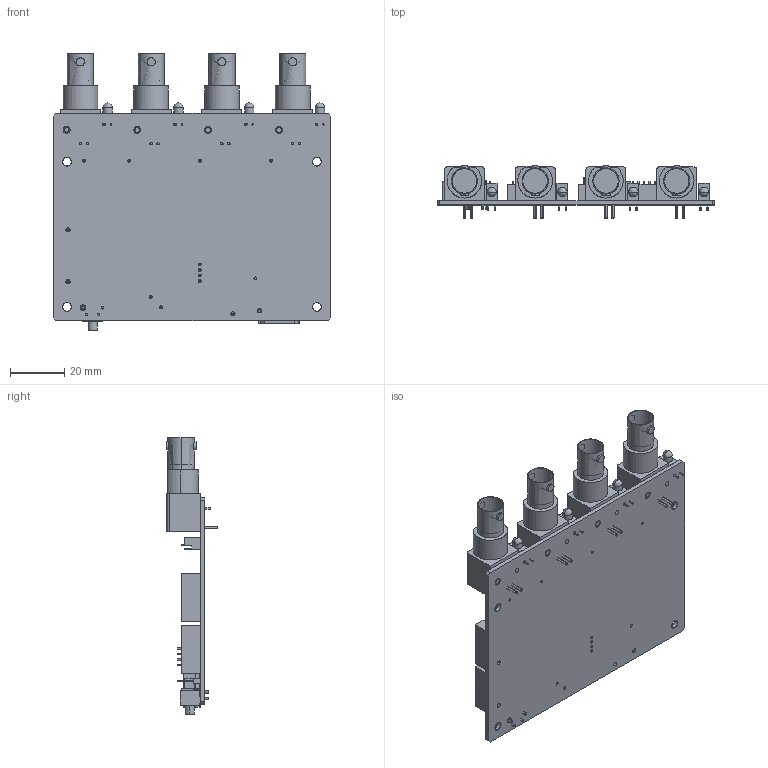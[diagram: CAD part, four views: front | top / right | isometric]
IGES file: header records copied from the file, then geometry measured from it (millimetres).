
Start section: SolidWorks IGES file using analytic representation for surfaces
Global section: file name: F:\DV 3D PCBs\AVD-2000 PCB 1911012\release files 191112\Assy PCB AVD-2000 191112.IGS; native system: SolidWorks 2019; preprocessor: SolidWorks 2019; author: MH2; date: 191112.110526; units: inch
Bounding box: 102.01 x 19.05 x 101.6 mm (x, y, z)
Surface area: 32634 mm2 (no closed solid volume)
Topology: 0 solids, 0 shells, 1367 faces, 11584 edges, 11580 vertices
Faces by surface type: bspline 1047, revolution 320
